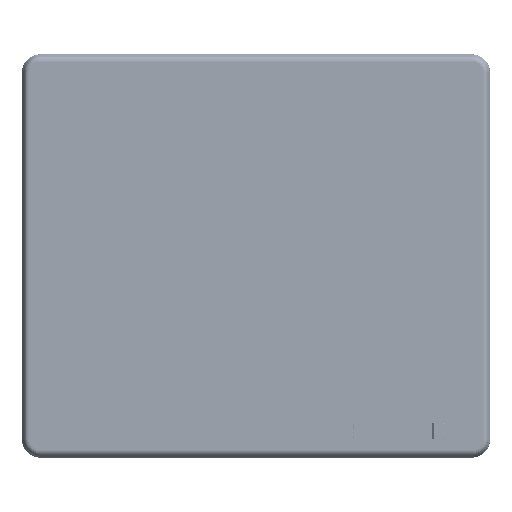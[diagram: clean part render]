
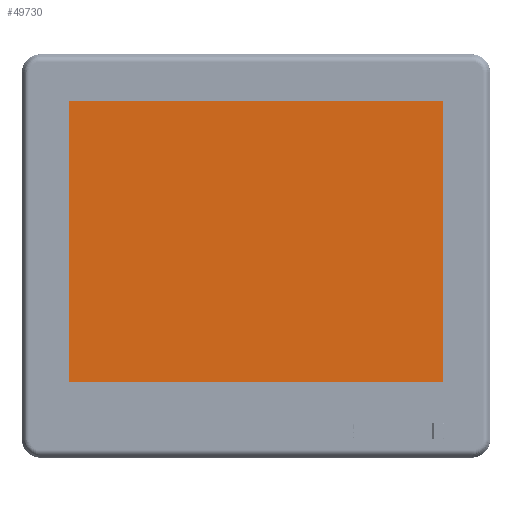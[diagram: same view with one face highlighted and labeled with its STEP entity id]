
A CAD part, top view. The second image highlights one B-rep face of the part: STEP entity #49730.
In plain terms, the highlighted planar face has unit normal (0, 0, 1).
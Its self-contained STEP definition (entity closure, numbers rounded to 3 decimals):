
#12496 = FACE_OUTER_BOUND ( 'NONE', #438425, .T. ) ;
#25257 = VERTEX_POINT ( 'NONE', #581251 ) ;
#26234 = DIRECTION ( 'NONE',  ( 0., 1., 0. ) ) ;
#46850 = EDGE_CURVE ( 'NONE', #281131, #62870, #633015, .T. ) ;
#48124 = ORIENTED_EDGE ( 'NONE', *, *, #46850, .T. ) ;
#48916 = DIRECTION ( 'NONE',  ( 0., -1., 0. ) ) ;
#49730 = ADVANCED_FACE ( 'NONE', ( #12496 ), #332672, .T. ) ;
#62870 = VERTEX_POINT ( 'NONE', #282110 ) ;
#64230 = CARTESIAN_POINT ( 'NONE',  ( -161.414, -84.381, 271.351 ) ) ;
#82409 = CARTESIAN_POINT ( 'NONE',  ( -56.814, -6.331, 271.351 ) ) ;
#84047 = VECTOR ( 'NONE', #465169, 1000. ) ;
#115945 = VERTEX_POINT ( 'NONE', #309245 ) ;
#117542 = VECTOR ( 'NONE', #48916, 1000. ) ;
#165791 = EDGE_CURVE ( 'NONE', #62870, #25257, #445392, .T. ) ;
#177981 = LINE ( 'NONE', #215157, #84047 ) ;
#215157 = CARTESIAN_POINT ( 'NONE',  ( -161.414, 74.019, 271.351 ) ) ;
#242394 = ORIENTED_EDGE ( 'NONE', *, *, #165791, .T. ) ;
#243550 = EDGE_CURVE ( 'NONE', #25257, #115945, #177981, .T. ) ;
#253138 = CARTESIAN_POINT ( 'NONE',  ( -161.414, 74.019, 271.351 ) ) ;
#281131 = VERTEX_POINT ( 'NONE', #571164 ) ;
#282110 = CARTESIAN_POINT ( 'NONE',  ( 49.786, -84.381, 271.351 ) ) ;
#309245 = CARTESIAN_POINT ( 'NONE',  ( -161.414, 74.019, 271.351 ) ) ;
#332672 = PLANE ( 'NONE',  #397125 ) ;
#397125 = AXIS2_PLACEMENT_3D ( 'NONE', #82409, #433646, #584779 ) ;
#410552 = ORIENTED_EDGE ( 'NONE', *, *, #243550, .T. ) ;
#415381 = ORIENTED_EDGE ( 'NONE', *, *, #448087, .T. ) ;
#433646 = DIRECTION ( 'NONE',  ( 0., 0., 1. ) ) ;
#438425 = EDGE_LOOP ( 'NONE', ( #415381, #48124, #242394, #410552 ) ) ;
#445392 = LINE ( 'NONE', #574817, #555448 ) ;
#448087 = EDGE_CURVE ( 'NONE', #115945, #281131, #533639, .T. ) ;
#465169 = DIRECTION ( 'NONE',  ( -1., 0., 0. ) ) ;
#476356 = VECTOR ( 'NONE', #566733, 1000. ) ;
#533639 = LINE ( 'NONE', #253138, #117542 ) ;
#555448 = VECTOR ( 'NONE', #26234, 1000. ) ;
#566733 = DIRECTION ( 'NONE',  ( 1., 0., 0. ) ) ;
#571164 = CARTESIAN_POINT ( 'NONE',  ( -161.414, -84.381, 271.351 ) ) ;
#574817 = CARTESIAN_POINT ( 'NONE',  ( 49.786, 74.019, 271.351 ) ) ;
#581251 = CARTESIAN_POINT ( 'NONE',  ( 49.786, 74.019, 271.351 ) ) ;
#584779 = DIRECTION ( 'NONE',  ( 1., 0., 0. ) ) ;
#633015 = LINE ( 'NONE', #64230, #476356 ) ;
